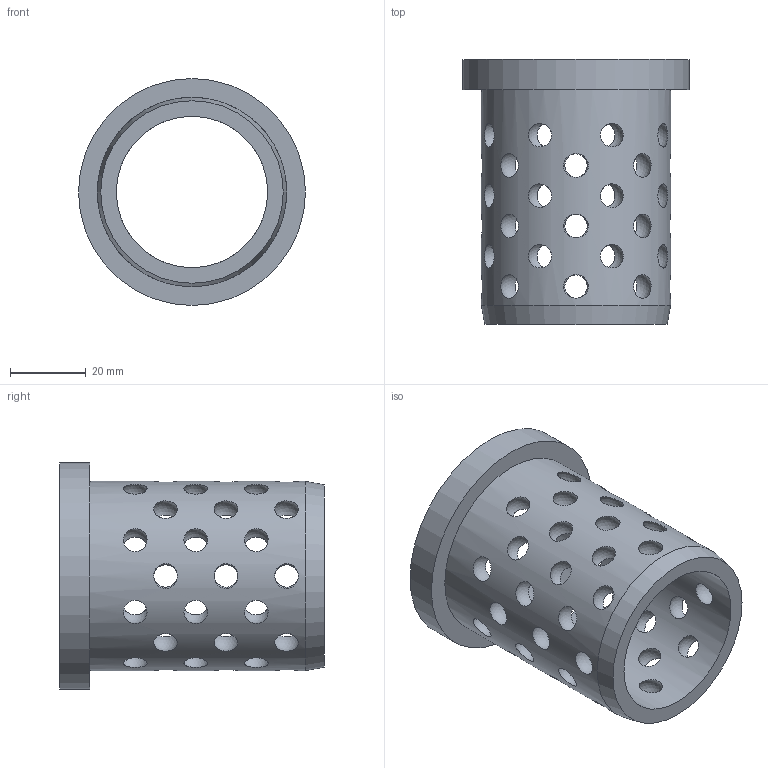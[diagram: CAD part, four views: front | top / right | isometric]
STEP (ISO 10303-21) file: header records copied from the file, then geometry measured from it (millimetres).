
FILE_DESCRIPTION( ( 'STEP AP203' ), '1' );
FILE_NAME( 'D:/Cuma/23 02 2009/D31 Serisi/D31_4070.step', '2002-12-31T23:02:45', ( ' ' ), ( ' ' ), 'XStep 1.0', ' ', ' ' );
FILE_SCHEMA( ( 'CONFIG_CONTROL_DESIGN' ) );
Length unit declared in the file: metre
Products named in the file (1): 1
Bounding box: 60 x 70 x 60 mm (x, y, z)
Volume: 44521.8 mm3; surface area: 25839.9 mm2
Topology: 1 solids, 1 shells, 56 faces, 218 edges, 159 vertices
Faces by surface type: sphere 48, plane 3, cylinder 3, torus 1, cone 1
Full cylindrical faces by diameter (mm): 40 x1, 50 x1, 60 x1
Entity records: 7365 total; most frequent: CARTESIAN_POINT 6073, EDGE_LOOP 208, ORIENTED_EDGE 208, FACE_BOUND 196, DIRECTION 130, EDGE_CURVE 104, VERTEX_POINT 104, B_SPLINE_CURVE_WITH_KNOTS 96
